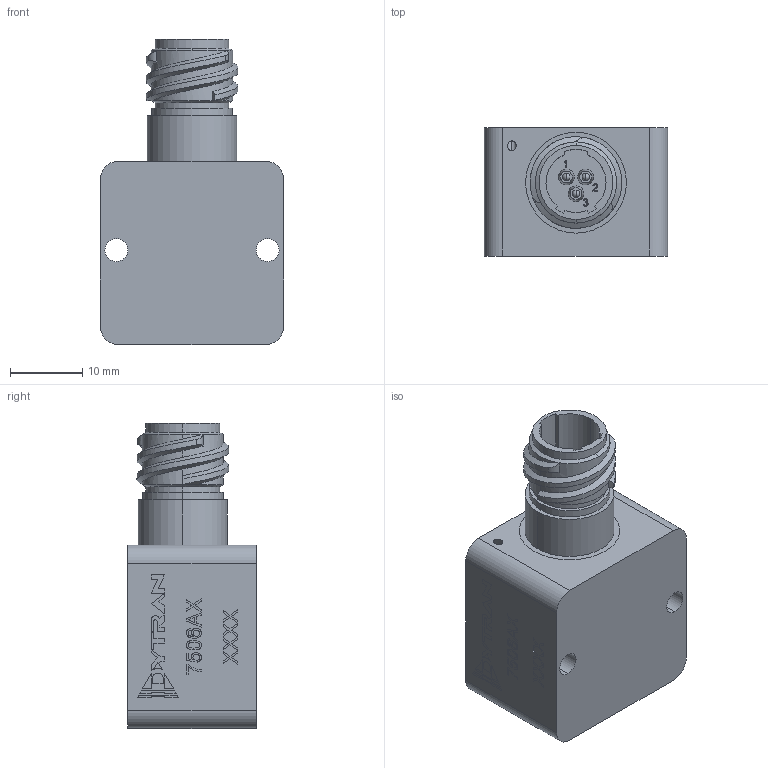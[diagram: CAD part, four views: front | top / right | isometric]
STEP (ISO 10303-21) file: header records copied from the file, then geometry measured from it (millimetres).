
FILE_DESCRIPTION (( 'STEP AP214' ), '1' );
FILE_NAME ('7506A1.STEP', '2017-12-19T18:52:36', ( 'Dytran' ), ( '' ), 'SwSTEP 2.0', 'SolidWorks 2016', '' );
FILE_SCHEMA (( 'AUTOMOTIVE_DESIGN' ));
Length unit declared in the file: inch
Products named in the file (1): 7506A1
Bounding box: 25.4 x 17.78 x 42.27 mm (x, y, z)
Volume: 12312.7 mm3; surface area: 4861.2 mm2
Topology: 4 solids, 4 shells, 447 faces, 1166 edges, 769 vertices
Faces by surface type: plane 256, bspline 93, cylinder 76, cone 16, sphere 6
Entity records: 19522 total; most frequent: CARTESIAN_POINT 7496, ORIENTED_EDGE 2332, DIRECTION 1841, EDGE_CURVE 1166, VECTOR 793, LINE 793, VERTEX_POINT 769, AXIS2_PLACEMENT_3D 524
